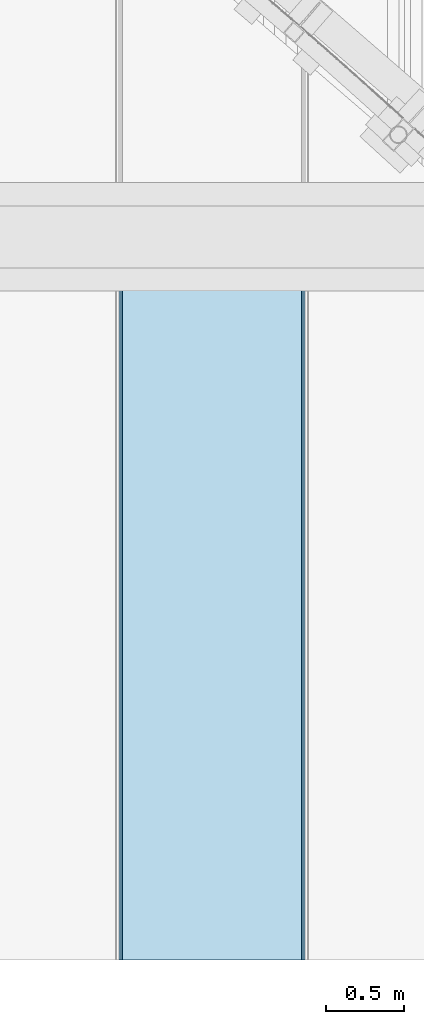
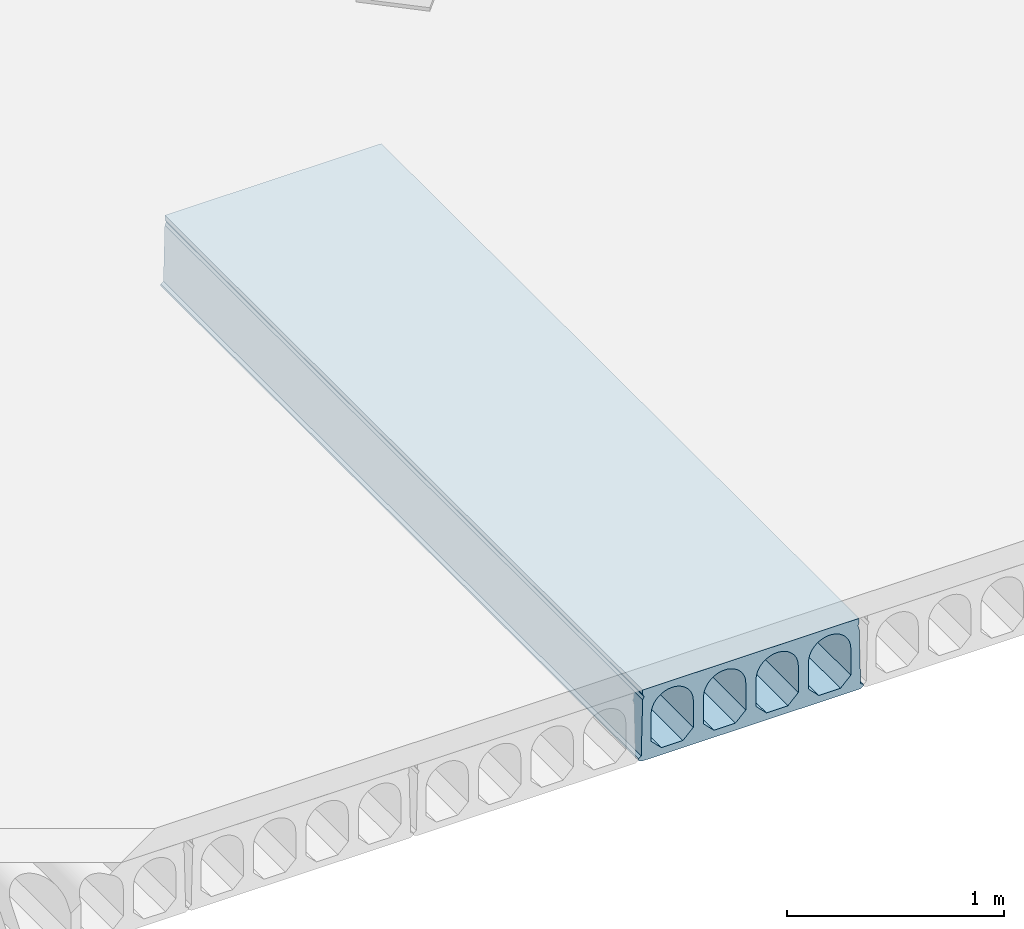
# One storey, part 47 of 98: 1 slab.
"""IFC2X3 building model written with IfcOpenShell, lengths in millimetres."""

from ifc_helpers import new_model, entity, si_unit, converted_unit, derived_unit, direction, frame, origin_with_axes, place, context, subcontext, project, spatial, faceted_brep, type_object, element, save


model = new_model("IFC2X3")

# Units and contexts
model_context = context("Model", 3, precision=0.01, world=frame((0.0, 4.29681676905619e-09, 0.0)), true_north=direction((4.01073788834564e-13, 1.0)))
plan_context = context("Plan", 3, precision=0.01, world=frame((0.0, 4.29681676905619e-09, 0.0)), true_north=direction((4.01073788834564e-13, 1.0)))
body_context = subcontext(model_context, "Body", "Model", "MODEL_VIEW")
ifc_project = project(units=[converted_unit("PLANEANGLEUNIT", "DEGREE", entity("IfcPositiveLengthMeasure", 0.0174532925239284), si_unit("PLANEANGLEUNIT", "RADIAN"), dimensions=[0, 0, 0, 0, 0, 0, 0]), si_unit("AREAUNIT", "SQUARE_METRE"), si_unit("LENGTHUNIT", "METRE", prefix="MILLI"), si_unit("MASSUNIT", "GRAM", prefix="KILO"), si_unit("POWERUNIT", "WATT"), si_unit("PRESSUREUNIT", "PASCAL"), si_unit("FORCEUNIT", "NEWTON", prefix="KILO"), si_unit("ELECTRICCURRENTUNIT", "AMPERE"), si_unit("THERMODYNAMICTEMPERATUREUNIT", "DEGREE_CELSIUS"), si_unit("TIMEUNIT", "SECOND"), si_unit("VOLUMEUNIT", "CUBIC_METRE"), derived_unit("LINEARVELOCITYUNIT", [(si_unit("LENGTHUNIT", "METRE"), 1), (si_unit("TIMEUNIT", "SECOND"), -1)]), derived_unit("VOLUMETRICFLOWRATEUNIT", [(si_unit("VOLUMEUNIT", "CUBIC_METRE"), 1), (si_unit("TIMEUNIT", "SECOND"), -1)]), derived_unit("THERMALTRANSMITTANCEUNIT", [(si_unit("POWERUNIT", "WATT"), 1), (si_unit("THERMODYNAMICTEMPERATUREUNIT", "KELVIN"), -1), (si_unit("AREAUNIT", "SQUARE_METRE"), -1)])], contexts=[model_context, plan_context])

# Site, building, storey
site_placement = place(None, frame((0.0, -4.29681676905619e-09, 0.0), z_axis=(0.0, 0.0, 1.0), x_axis=(1.0, 0.0, 0.0)))
site = spatial("IfcSite", under=ifc_project, at=site_placement, Name="Gardermoen", CompositionType="ELEMENT")
building_placement = place(site_placement, frame((0.0, 4.29681676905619e-09, 0.0), z_axis=(0.0, 0.0, 1.0), x_axis=(1.0, 0.0, 0.0)))
building = spatial("IfcBuilding", under=site, at=building_placement, Name="TS", CompositionType="ELEMENT")
storey_placement = place(building_placement, origin_with_axes())
storey = spatial("IfcBuildingStorey", under=building, at=storey_placement, Name="D", CompositionType="ELEMENT", Elevation=0.0)

# Slab
slab_type = type_object("IfcSlabType", Name="HD400", PredefinedType="NOTDEFINED")
slab_placement = place(storey_placement, frame((524799.999766, 396739.995625, 203600.0), z_axis=(0.0, 0.0, 1.0), x_axis=(0.0, 1.0, 0.0)))
element("IfcSlab", 1, at=slab_placement, inside=storey, type_object=slab_type, Name="HULLDEKKE", ObjectType="HD400", PredefinedType="FLOOR", context=body_context, shape_type="Brep", body=[
    faceted_brep([(4105.68103395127, 600.0, -180.0), (4105.68103395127, 600.0, -190.0), (8520.0, 600.0, -190.0), (8520.0, 600.0, -180.0), (4105.68103395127, 585.0, -170.0), (8520.0, 585.0, -170.0), (4105.68103395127, 577.5, 145.0), (8520.0, 577.5, 145.0), (4105.68103395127, 570.0, 160.0), (8520.0, 570.0, 160.0), (4105.68103395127, 577.5, 175.0), (8520.0, 577.5, 175.0), (4105.68103395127, 577.5, 200.0), (8520.0, 577.5, 200.0), (4105.68103395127, -577.5, 200.0), (8520.0, -577.5, 200.0), (4105.68103395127, -577.5, 175.0), (8520.0, -577.5, 175.0), (4105.68103395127, -570.0, 160.0), (8520.0, -570.0, 160.0), (4105.68103395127, -577.5, 145.0), (8520.0, -577.5, 145.0), (4105.68103395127, -585.0, -170.0), (8520.0, -585.0, -170.0), (4105.68103395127, -600.0, -180.0), (8520.0, -600.0, -180.0), (4105.68103395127, -600.0, -190.0), (8520.0, -600.0, -190.0), (4105.68103395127, -583.380004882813, -200.0), (8520.0, -583.380004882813, -200.0), (4105.68103395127, 583.380004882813, -200.0), (8520.0, 583.380004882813, -200.0), (4105.68103395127, -477.5, -160.0), (4105.68103395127, -362.5, -160.0), (8520.0, -362.5, -160.0), (8520.0, -477.5, -160.0), (4105.68103395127, -532.5, -105.0), (8520.0, -532.5, -105.0), (4105.68103395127, -532.5, 47.5), (8520.0, -532.5, 47.5), (4105.68103395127, -532.115755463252, 56.7901763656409), (8520.0, -532.115755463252, 56.7901763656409), (4105.68103395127, -530.965646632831, 66.0168914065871), (8520.0, -530.965646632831, 66.0168914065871), (4105.68103395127, -529.057529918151, 75.1171173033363), (8520.0, -529.057529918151, 75.1171173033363), (4105.68103395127, -526.404439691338, 84.028690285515), (8520.0, -526.404439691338, 84.028690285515), (4105.68103395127, -523.024499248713, 92.6907352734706), (8520.0, -523.024499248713, 92.6907352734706), (4105.68103395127, -518.940797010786, 101.044081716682), (8520.0, -518.940797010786, 101.044081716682), (4105.68103395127, -514.181228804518, 109.031667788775), (8520.0, -514.181228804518, 109.031667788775), (4105.68103395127, -508.778307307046, 116.598930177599), (8520.0, -508.778307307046, 116.598930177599), (4105.68103395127, -502.768939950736, 123.694176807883), (8520.0, -502.768939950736, 123.694176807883), (4105.68103395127, -496.194176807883, 130.268939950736), (8520.0, -496.194176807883, 130.268939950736), (4105.68103395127, -489.098930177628, 136.278307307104), (8520.0, -489.098930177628, 136.278307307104), (4105.68103395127, -481.531667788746, 141.681228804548), (8520.0, -481.531667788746, 141.681228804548), (4105.68103395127, -473.544081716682, 146.440797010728), (8520.0, -473.544081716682, 146.440797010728), (4105.68103395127, -465.190735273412, 150.524499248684), (8520.0, -465.190735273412, 150.524499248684), (4105.68103395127, -456.528690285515, 153.904439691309), (8520.0, -456.528690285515, 153.904439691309), (4105.68103395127, -447.617117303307, 156.55752991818), (8520.0, -447.617117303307, 156.55752991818), (4105.68103395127, -438.516891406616, 158.465646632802), (8520.0, -438.516891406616, 158.465646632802), (4105.68103395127, -429.290176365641, 159.615755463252), (8520.0, -429.290176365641, 159.615755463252), (4105.68103395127, -420.0, 160.0), (8520.0, -420.0, 160.0), (4105.68103395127, -410.709823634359, 159.615755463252), (8520.0, -410.709823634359, 159.615755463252), (4105.68103395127, -401.483108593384, 158.465646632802), (8520.0, -401.483108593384, 158.465646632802), (4105.68103395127, -392.382882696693, 156.55752991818), (8520.0, -392.382882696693, 156.55752991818), (4105.68103395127, -383.471309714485, 153.904439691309), (8520.0, -383.471309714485, 153.904439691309), (4105.68103395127, -374.809264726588, 150.524499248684), (8520.0, -374.809264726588, 150.524499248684), (4105.68103395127, -366.455918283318, 146.440797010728), (8520.0, -366.455918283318, 146.440797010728), (4105.68103395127, -358.468332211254, 141.681228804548), (8520.0, -358.468332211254, 141.681228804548), (4105.68103395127, -350.901069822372, 136.278307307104), (8520.0, -350.901069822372, 136.278307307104), (4105.68103395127, -343.805823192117, 130.268939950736), (8520.0, -343.805823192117, 130.268939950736), (4105.68103395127, -337.231060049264, 123.694176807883), (8520.0, -337.231060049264, 123.694176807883), (4105.68103395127, -331.221692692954, 116.598930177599), (8520.0, -331.221692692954, 116.598930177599), (4105.68103395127, -325.818771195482, 109.031667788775), (8520.0, -325.818771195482, 109.031667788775), (4105.68103395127, -321.059202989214, 101.044081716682), (8520.0, -321.059202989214, 101.044081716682), (4105.68103395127, -316.975500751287, 92.6907352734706), (8520.0, -316.975500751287, 92.6907352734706), (4105.68103395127, -313.595560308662, 84.028690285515), (8520.0, -313.595560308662, 84.028690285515), (4105.68103395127, -310.942470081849, 75.1171173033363), (8520.0, -310.942470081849, 75.1171173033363), (4105.68103395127, -309.034353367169, 66.0168914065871), (8520.0, -309.034353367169, 66.0168914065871), (4105.68103395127, -307.884244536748, 56.7901763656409), (8520.0, -307.884244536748, 56.7901763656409), (4105.68103395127, -307.5, 47.5), (8520.0, -307.5, 47.5), (4105.68103395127, -307.5, -105.0), (8520.0, -307.5, -105.0), (4105.68103395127, -197.5, -160.0), (4105.68103395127, -82.5, -160.0), (8520.0, -82.5, -160.0), (8520.0, -197.5, -160.0), (4105.68103395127, -252.5, -105.0), (8520.0, -252.5, -105.0), (4105.68103395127, -252.5, 47.5), (8520.0, -252.5, 47.5), (4105.68103395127, -252.115755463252, 56.7901763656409), (8520.0, -252.115755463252, 56.7901763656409), (4105.68103395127, -250.965646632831, 66.0168914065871), (8520.0, -250.965646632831, 66.0168914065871), (4105.68103395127, -249.057529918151, 75.1171173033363), (8520.0, -249.057529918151, 75.1171173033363), (4105.68103395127, -246.404439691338, 84.028690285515), (8520.0, -246.404439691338, 84.028690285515), (4105.68103395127, -243.024499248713, 92.6907352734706), (8520.0, -243.024499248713, 92.6907352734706), (4105.68103395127, -238.940797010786, 101.044081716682), (8520.0, -238.940797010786, 101.044081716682), (4105.68103395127, -234.181228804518, 109.031667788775), (8520.0, -234.181228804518, 109.031667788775), (4105.68103395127, -228.778307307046, 116.598930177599), (8520.0, -228.778307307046, 116.598930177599), (4105.68103395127, -222.768939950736, 123.694176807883), (8520.0, -222.768939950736, 123.694176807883), (4105.68103395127, -216.194176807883, 130.268939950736), (8520.0, -216.194176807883, 130.268939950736), (4105.68103395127, -209.098930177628, 136.278307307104), (8520.0, -209.098930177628, 136.278307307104), (4105.68103395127, -201.531667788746, 141.681228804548), (8520.0, -201.531667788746, 141.681228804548), (4105.68103395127, -193.544081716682, 146.440797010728), (8520.0, -193.544081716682, 146.440797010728), (4105.68103395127, -185.190735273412, 150.524499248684), (8520.0, -185.190735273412, 150.524499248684), (4105.68103395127, -176.528690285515, 153.904439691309), (8520.0, -176.528690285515, 153.904439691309), (4105.68103395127, -167.617117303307, 156.55752991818), (8520.0, -167.617117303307, 156.55752991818), (4105.68103395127, -158.516891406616, 158.465646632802), (8520.0, -158.516891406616, 158.465646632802), (4105.68103395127, -149.290176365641, 159.615755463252), (8520.0, -149.290176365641, 159.615755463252), (4105.68103395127, -140.0, 160.0), (8520.0, -140.0, 160.0), (4105.68103395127, -130.709823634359, 159.615755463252), (8520.0, -130.709823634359, 159.615755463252), (4105.68103395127, -121.483108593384, 158.465646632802), (8520.0, -121.483108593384, 158.465646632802), (4105.68103395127, -112.382882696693, 156.55752991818), (8520.0, -112.382882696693, 156.55752991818), (4105.68103395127, -103.471309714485, 153.904439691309), (8520.0, -103.471309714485, 153.904439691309), (4105.68103395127, -94.8092647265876, 150.524499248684), (8520.0, -94.8092647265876, 150.524499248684), (4105.68103395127, -86.4559182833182, 146.440797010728), (8520.0, -86.4559182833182, 146.440797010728), (4105.68103395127, -78.4683322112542, 141.681228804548), (8520.0, -78.4683322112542, 141.681228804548), (4105.68103395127, -70.9010698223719, 136.278307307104), (8520.0, -70.9010698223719, 136.278307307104), (4105.68103395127, -63.8058231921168, 130.268939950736), (8520.0, -63.8058231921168, 130.268939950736), (4105.68103395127, -57.2310600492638, 123.694176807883), (8520.0, -57.2310600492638, 123.694176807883), (4105.68103395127, -51.2216926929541, 116.598930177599), (8520.0, -51.2216926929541, 116.598930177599), (4105.68103395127, -45.8187711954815, 109.031667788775), (8520.0, -45.8187711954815, 109.031667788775), (4105.68103395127, -41.0592029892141, 101.044081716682), (8520.0, -41.0592029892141, 101.044081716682), (4105.68103395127, -36.9755007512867, 92.6907352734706), (8520.0, -36.9755007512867, 92.6907352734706), (4105.68103395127, -33.5955603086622, 84.028690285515), (8520.0, -33.5955603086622, 84.028690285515), (4105.68103395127, -30.942470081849, 75.1171173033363), (8520.0, -30.942470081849, 75.1171173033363), (4105.68103395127, -29.0343533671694, 66.0168914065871), (8520.0, -29.0343533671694, 66.0168914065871), (4105.68103395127, -27.8842445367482, 56.7901763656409), (8520.0, -27.8842445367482, 56.7901763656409), (4105.68103395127, -27.5, 47.5), (8520.0, -27.5, 47.5), (4105.68103395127, -27.5, -105.0), (8520.0, -27.5, -105.0), (4105.68103395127, 82.5, -160.0), (4105.68103395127, 197.5, -160.0), (8520.0, 197.5, -160.0), (8520.0, 82.5, -160.0), (4105.68103395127, 27.5, -105.0), (8520.0, 27.5, -105.0), (4105.68103395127, 27.5, 47.5), (8520.0, 27.5, 47.5), (4105.68103395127, 27.8842445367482, 56.7901763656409), (8520.0, 27.8842445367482, 56.7901763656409), (4105.68103395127, 29.0343533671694, 66.0168914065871), (8520.0, 29.0343533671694, 66.0168914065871), (4105.68103395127, 30.942470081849, 75.1171173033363), (8520.0, 30.942470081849, 75.1171173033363), (4105.68103395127, 33.5955603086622, 84.028690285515), (8520.0, 33.5955603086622, 84.028690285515), (4105.68103395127, 36.9755007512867, 92.6907352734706), (8520.0, 36.9755007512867, 92.6907352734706), (4105.68103395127, 41.0592029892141, 101.044081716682), (8520.0, 41.0592029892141, 101.044081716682), (4105.68103395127, 45.8187711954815, 109.031667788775), (8520.0, 45.8187711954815, 109.031667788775), (4105.68103395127, 51.2216926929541, 116.598930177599), (8520.0, 51.2216926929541, 116.598930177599), (4105.68103395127, 57.2310600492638, 123.694176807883), (8520.0, 57.2310600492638, 123.694176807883), (4105.68103395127, 63.8058231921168, 130.268939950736), (8520.0, 63.8058231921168, 130.268939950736), (4105.68103395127, 70.9010698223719, 136.278307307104), (8520.0, 70.9010698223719, 136.278307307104), (4105.68103395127, 78.4683322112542, 141.681228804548), (8520.0, 78.4683322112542, 141.681228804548), (4105.68103395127, 86.4559182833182, 146.440797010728), (8520.0, 86.4559182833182, 146.440797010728), (4105.68103395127, 94.8092647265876, 150.524499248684), (8520.0, 94.8092647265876, 150.524499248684), (4105.68103395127, 103.471309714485, 153.904439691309), (8520.0, 103.471309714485, 153.904439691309), (4105.68103395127, 112.382882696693, 156.55752991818), (8520.0, 112.382882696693, 156.55752991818), (4105.68103395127, 121.483108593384, 158.465646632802), (8520.0, 121.483108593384, 158.465646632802), (4105.68103395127, 130.709823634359, 159.615755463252), (8520.0, 130.709823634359, 159.615755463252), (4105.68103395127, 140.0, 160.0), (8520.0, 140.0, 160.0), (4105.68103395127, 149.290176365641, 159.615755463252), (8520.0, 149.290176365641, 159.615755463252), (4105.68103395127, 158.516891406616, 158.465646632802), (8520.0, 158.516891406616, 158.465646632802), (4105.68103395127, 167.617117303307, 156.55752991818), (8520.0, 167.617117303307, 156.55752991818), (4105.68103395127, 176.528690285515, 153.904439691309), (8520.0, 176.528690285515, 153.904439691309), (4105.68103395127, 185.190735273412, 150.524499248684), (8520.0, 185.190735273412, 150.524499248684), (4105.68103395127, 193.544081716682, 146.440797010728), (8520.0, 193.544081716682, 146.440797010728), (4105.68103395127, 201.531667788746, 141.681228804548), (8520.0, 201.531667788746, 141.681228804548), (4105.68103395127, 209.098930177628, 136.278307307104), (8520.0, 209.098930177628, 136.278307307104), (4105.68103395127, 216.194176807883, 130.268939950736), (8520.0, 216.194176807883, 130.268939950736), (4105.68103395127, 222.768939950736, 123.694176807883), (8520.0, 222.768939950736, 123.694176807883), (4105.68103395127, 228.778307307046, 116.598930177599), (8520.0, 228.778307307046, 116.598930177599), (4105.68103395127, 234.181228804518, 109.031667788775), (8520.0, 234.181228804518, 109.031667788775), (4105.68103395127, 238.940797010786, 101.044081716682), (8520.0, 238.940797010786, 101.044081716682), (4105.68103395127, 243.024499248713, 92.6907352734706), (8520.0, 243.024499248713, 92.6907352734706), (4105.68103395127, 246.404439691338, 84.028690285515), (8520.0, 246.404439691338, 84.028690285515), (4105.68103395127, 249.057529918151, 75.1171173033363), (8520.0, 249.057529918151, 75.1171173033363), (4105.68103395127, 250.965646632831, 66.0168914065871), (8520.0, 250.965646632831, 66.0168914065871), (4105.68103395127, 252.115755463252, 56.7901763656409), (8520.0, 252.115755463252, 56.7901763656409), (4105.68103395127, 252.5, 47.5), (8520.0, 252.5, 47.5), (4105.68103395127, 252.5, -105.0), (8520.0, 252.5, -105.0), (4105.68103395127, 362.5, -160.0), (4105.68103395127, 477.5, -160.0), (8520.0, 477.5, -160.0), (8520.0, 362.5, -160.0), (4105.68103395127, 307.5, -105.0), (8520.0, 307.5, -105.0), (4105.68103395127, 307.5, 47.5), (8520.0, 307.5, 47.5), (4105.68103395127, 307.884244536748, 56.7901763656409), (8520.0, 307.884244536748, 56.7901763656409), (4105.68103395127, 309.034353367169, 66.0168914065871), (8520.0, 309.034353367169, 66.0168914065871), (4105.68103395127, 310.942470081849, 75.1171173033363), (8520.0, 310.942470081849, 75.1171173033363), (4105.68103395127, 313.595560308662, 84.028690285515), (8520.0, 313.595560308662, 84.028690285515), (4105.68103395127, 316.975500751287, 92.6907352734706), (8520.0, 316.975500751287, 92.6907352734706), (4105.68103395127, 321.059202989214, 101.044081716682), (8520.0, 321.059202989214, 101.044081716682), (4105.68103395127, 325.818771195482, 109.031667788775), (8520.0, 325.818771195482, 109.031667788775), (4105.68103395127, 331.221692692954, 116.598930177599), (8520.0, 331.221692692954, 116.598930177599), (4105.68103395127, 337.231060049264, 123.694176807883), (8520.0, 337.231060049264, 123.694176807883), (4105.68103395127, 343.805823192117, 130.268939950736), (8520.0, 343.805823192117, 130.268939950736), (4105.68103395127, 350.901069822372, 136.278307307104), (8520.0, 350.901069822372, 136.278307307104), (4105.68103395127, 358.468332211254, 141.681228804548), (8520.0, 358.468332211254, 141.681228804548), (4105.68103395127, 366.455918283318, 146.440797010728), (8520.0, 366.455918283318, 146.440797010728), (4105.68103395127, 374.809264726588, 150.524499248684), (8520.0, 374.809264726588, 150.524499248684), (4105.68103395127, 383.471309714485, 153.904439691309), (8520.0, 383.471309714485, 153.904439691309), (4105.68103395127, 392.382882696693, 156.55752991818), (8520.0, 392.382882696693, 156.55752991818), (4105.68103395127, 401.483108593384, 158.465646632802), (8520.0, 401.483108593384, 158.465646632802), (4105.68103395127, 410.709823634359, 159.615755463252), (8520.0, 410.709823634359, 159.615755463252), (4105.68103395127, 420.0, 160.0), (8520.0, 420.0, 160.0), (4105.68103395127, 429.290176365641, 159.615755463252), (8520.0, 429.290176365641, 159.615755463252), (4105.68103395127, 438.516891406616, 158.465646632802), (8520.0, 438.516891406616, 158.465646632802), (4105.68103395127, 447.617117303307, 156.55752991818), (8520.0, 447.617117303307, 156.55752991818), (4105.68103395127, 456.528690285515, 153.904439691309), (8520.0, 456.528690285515, 153.904439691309), (4105.68103395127, 465.190735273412, 150.524499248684), (8520.0, 465.190735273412, 150.524499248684), (4105.68103395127, 473.544081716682, 146.440797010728), (8520.0, 473.544081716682, 146.440797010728), (4105.68103395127, 481.531667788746, 141.681228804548), (8520.0, 481.531667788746, 141.681228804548), (4105.68103395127, 489.098930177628, 136.278307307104), (8520.0, 489.098930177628, 136.278307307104), (4105.68103395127, 496.194176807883, 130.268939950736), (8520.0, 496.194176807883, 130.268939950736), (4105.68103395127, 502.768939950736, 123.694176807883), (8520.0, 502.768939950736, 123.694176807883), (4105.68103395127, 508.778307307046, 116.598930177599), (8520.0, 508.778307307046, 116.598930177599), (4105.68103395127, 514.181228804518, 109.031667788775), (8520.0, 514.181228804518, 109.031667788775), (4105.68103395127, 518.940797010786, 101.044081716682), (8520.0, 518.940797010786, 101.044081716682), (4105.68103395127, 523.024499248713, 92.6907352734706), (8520.0, 523.024499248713, 92.6907352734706), (4105.68103395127, 526.404439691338, 84.028690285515), (8520.0, 526.404439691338, 84.028690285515), (4105.68103395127, 529.057529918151, 75.1171173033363), (8520.0, 529.057529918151, 75.1171173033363), (4105.68103395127, 530.965646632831, 66.0168914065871), (8520.0, 530.965646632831, 66.0168914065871), (4105.68103395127, 532.115755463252, 56.7901763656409), (8520.0, 532.115755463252, 56.7901763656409), (4105.68103395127, 532.5, 47.5), (8520.0, 532.5, 47.5), (4105.68103395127, 532.5, -105.0), (8520.0, 532.5, -105.0)], [[[0, 1, 2, 3]], [[4, 0, 3, 5]], [[6, 4, 5, 7]], [[8, 6, 7, 9]], [[10, 8, 9, 11]], [[12, 10, 11, 13]], [[14, 12, 13, 15]], [[16, 14, 15, 17]], [[18, 16, 17, 19]], [[20, 18, 19, 21]], [[22, 20, 21, 23]], [[24, 22, 23, 25]], [[26, 24, 25, 27]], [[28, 26, 27, 29]], [[30, 28, 29, 31]], [[1, 30, 31, 2]], [[32, 33, 34, 35]], [[36, 32, 35, 37]], [[38, 36, 37, 39]], [[40, 38, 39, 41]], [[42, 40, 41, 43]], [[44, 42, 43, 45]], [[46, 44, 45, 47]], [[48, 46, 47, 49]], [[50, 48, 49, 51]], [[52, 50, 51, 53]], [[54, 52, 53, 55]], [[56, 54, 55, 57]], [[58, 56, 57, 59]], [[60, 58, 59, 61]], [[62, 60, 61, 63]], [[64, 62, 63, 65]], [[66, 64, 65, 67]], [[68, 66, 67, 69]], [[70, 68, 69, 71]], [[72, 70, 71, 73]], [[74, 72, 73, 75]], [[76, 74, 75, 77]], [[78, 76, 77, 79]], [[80, 78, 79, 81]], [[82, 80, 81, 83]], [[84, 82, 83, 85]], [[86, 84, 85, 87]], [[88, 86, 87, 89]], [[90, 88, 89, 91]], [[92, 90, 91, 93]], [[94, 92, 93, 95]], [[96, 94, 95, 97]], [[98, 96, 97, 99]], [[100, 98, 99, 101]], [[102, 100, 101, 103]], [[104, 102, 103, 105]], [[106, 104, 105, 107]], [[108, 106, 107, 109]], [[110, 108, 109, 111]], [[112, 110, 111, 113]], [[114, 112, 113, 115]], [[116, 114, 115, 117]], [[33, 116, 117, 34]], [[118, 119, 120, 121]], [[122, 118, 121, 123]], [[124, 122, 123, 125]], [[126, 124, 125, 127]], [[128, 126, 127, 129]], [[130, 128, 129, 131]], [[132, 130, 131, 133]], [[134, 132, 133, 135]], [[136, 134, 135, 137]], [[138, 136, 137, 139]], [[140, 138, 139, 141]], [[142, 140, 141, 143]], [[144, 142, 143, 145]], [[146, 144, 145, 147]], [[148, 146, 147, 149]], [[150, 148, 149, 151]], [[152, 150, 151, 153]], [[154, 152, 153, 155]], [[156, 154, 155, 157]], [[158, 156, 157, 159]], [[160, 158, 159, 161]], [[162, 160, 161, 163]], [[164, 162, 163, 165]], [[166, 164, 165, 167]], [[168, 166, 167, 169]], [[170, 168, 169, 171]], [[172, 170, 171, 173]], [[174, 172, 173, 175]], [[176, 174, 175, 177]], [[178, 176, 177, 179]], [[180, 178, 179, 181]], [[182, 180, 181, 183]], [[184, 182, 183, 185]], [[186, 184, 185, 187]], [[188, 186, 187, 189]], [[190, 188, 189, 191]], [[192, 190, 191, 193]], [[194, 192, 193, 195]], [[196, 194, 195, 197]], [[198, 196, 197, 199]], [[200, 198, 199, 201]], [[202, 200, 201, 203]], [[119, 202, 203, 120]], [[204, 205, 206, 207]], [[208, 204, 207, 209]], [[210, 208, 209, 211]], [[212, 210, 211, 213]], [[214, 212, 213, 215]], [[216, 214, 215, 217]], [[218, 216, 217, 219]], [[220, 218, 219, 221]], [[222, 220, 221, 223]], [[224, 222, 223, 225]], [[226, 224, 225, 227]], [[228, 226, 227, 229]], [[230, 228, 229, 231]], [[232, 230, 231, 233]], [[234, 232, 233, 235]], [[236, 234, 235, 237]], [[238, 236, 237, 239]], [[240, 238, 239, 241]], [[242, 240, 241, 243]], [[244, 242, 243, 245]], [[246, 244, 245, 247]], [[248, 246, 247, 249]], [[250, 248, 249, 251]], [[252, 250, 251, 253]], [[254, 252, 253, 255]], [[256, 254, 255, 257]], [[258, 256, 257, 259]], [[260, 258, 259, 261]], [[262, 260, 261, 263]], [[264, 262, 263, 265]], [[266, 264, 265, 267]], [[268, 266, 267, 269]], [[270, 268, 269, 271]], [[272, 270, 271, 273]], [[274, 272, 273, 275]], [[276, 274, 275, 277]], [[278, 276, 277, 279]], [[280, 278, 279, 281]], [[282, 280, 281, 283]], [[284, 282, 283, 285]], [[286, 284, 285, 287]], [[288, 286, 287, 289]], [[205, 288, 289, 206]], [[290, 291, 292, 293]], [[294, 290, 293, 295]], [[296, 294, 295, 297]], [[298, 296, 297, 299]], [[300, 298, 299, 301]], [[302, 300, 301, 303]], [[304, 302, 303, 305]], [[306, 304, 305, 307]], [[308, 306, 307, 309]], [[310, 308, 309, 311]], [[312, 310, 311, 313]], [[314, 312, 313, 315]], [[316, 314, 315, 317]], [[318, 316, 317, 319]], [[320, 318, 319, 321]], [[322, 320, 321, 323]], [[324, 322, 323, 325]], [[326, 324, 325, 327]], [[328, 326, 327, 329]], [[330, 328, 329, 331]], [[332, 330, 331, 333]], [[334, 332, 333, 335]], [[336, 334, 335, 337]], [[338, 336, 337, 339]], [[340, 338, 339, 341]], [[342, 340, 341, 343]], [[344, 342, 343, 345]], [[346, 344, 345, 347]], [[348, 346, 347, 349]], [[350, 348, 349, 351]], [[352, 350, 351, 353]], [[354, 352, 353, 355]], [[356, 354, 355, 357]], [[358, 356, 357, 359]], [[360, 358, 359, 361]], [[362, 360, 361, 363]], [[364, 362, 363, 365]], [[366, 364, 365, 367]], [[368, 366, 367, 369]], [[370, 368, 369, 371]], [[372, 370, 371, 373]], [[374, 372, 373, 375]], [[291, 374, 375, 292]], [[3, 2, 31, 29, 27, 25, 23, 21, 19, 17, 15, 13, 11, 9, 7, 5], [293, 292, 375, 373, 371, 369, 367, 365, 363, 361, 359, 357, 355, 353, 351, 349, 347, 345, 343, 341, 339, 337, 335, 333, 331, 329, 327, 325, 323, 321, 319, 317, 315, 313, 311, 309, 307, 305, 303, 301, 299, 297, 295], [207, 206, 289, 287, 285, 283, 281, 279, 277, 275, 273, 271, 269, 267, 265, 263, 261, 259, 257, 255, 253, 251, 249, 247, 245, 243, 241, 239, 237, 235, 233, 231, 229, 227, 225, 223, 221, 219, 217, 215, 213, 211, 209], [121, 120, 203, 201, 199, 197, 195, 193, 191, 189, 187, 185, 183, 181, 179, 177, 175, 173, 171, 169, 167, 165, 163, 161, 159, 157, 155, 153, 151, 149, 147, 145, 143, 141, 139, 137, 135, 133, 131, 129, 127, 125, 123], [35, 34, 117, 115, 113, 111, 109, 107, 105, 103, 101, 99, 97, 95, 93, 91, 89, 87, 85, 83, 81, 79, 77, 75, 73, 71, 69, 67, 65, 63, 61, 59, 57, 55, 53, 51, 49, 47, 45, 43, 41, 39, 37]], [[4, 6, 8, 10, 12, 14, 16, 18, 20, 22, 24, 26, 28, 30, 1, 0], [36, 38, 40, 42, 44, 46, 48, 50, 52, 54, 56, 58, 60, 62, 64, 66, 68, 70, 72, 74, 76, 78, 80, 82, 84, 86, 88, 90, 92, 94, 96, 98, 100, 102, 104, 106, 108, 110, 112, 114, 116, 33, 32], [122, 124, 126, 128, 130, 132, 134, 136, 138, 140, 142, 144, 146, 148, 150, 152, 154, 156, 158, 160, 162, 164, 166, 168, 170, 172, 174, 176, 178, 180, 182, 184, 186, 188, 190, 192, 194, 196, 198, 200, 202, 119, 118], [208, 210, 212, 214, 216, 218, 220, 222, 224, 226, 228, 230, 232, 234, 236, 238, 240, 242, 244, 246, 248, 250, 252, 254, 256, 258, 260, 262, 264, 266, 268, 270, 272, 274, 276, 278, 280, 282, 284, 286, 288, 205, 204], [294, 296, 298, 300, 302, 304, 306, 308, 310, 312, 314, 316, 318, 320, 322, 324, 326, 328, 330, 332, 334, 336, 338, 340, 342, 344, 346, 348, 350, 352, 354, 356, 358, 360, 362, 364, 366, 368, 370, 372, 374, 291, 290]]], orient=[[False], [False], [False], [False], [False], [False], [False], [False], [False], [False], [False], [False], [False], [False], [False], [False], [False], [False], [False], [False], [False], [False], [False], [False], [False], [False], [False], [False], [False], [False], [False], [False], [False], [False], [False], [False], [False], [False], [False], [False], [False], [False], [False], [False], [False], [False], [False], [False], [False], [False], [False], [False], [False], [False], [False], [False], [False], [False], [False], [False], [False], [False], [False], [False], [False], [False], [False], [False], [False], [False], [False], [False], [False], [False], [False], [False], [False], [False], [False], [False], [False], [False], [False], [False], [False], [False], [False], [False], [False], [False], [False], [False], [False], [False], [False], [False], [False], [False], [False], [False], [False], [False], [False], [False], [False], [False], [False], [False], [False], [False], [False], [False], [False], [False], [False], [False], [False], [False], [False], [False], [False], [False], [False], [False], [False], [False], [False], [False], [False], [False], [False], [False], [False], [False], [False], [False], [False], [False], [False], [False], [False], [False], [False], [False], [False], [False], [False], [False], [False], [False], [False], [False], [False], [False], [False], [False], [False], [False], [False], [False], [False], [False], [False], [False], [False], [False], [False], [False], [False], [False], [False], [False], [False], [False], [False], [False], [False], [False], [False], [False], [False], [False], [False], [False], [False], [False], [False], [False], [False, False, False, False, False], [False, False, False, False, False]]),
])

save(model, "model.ifc")
